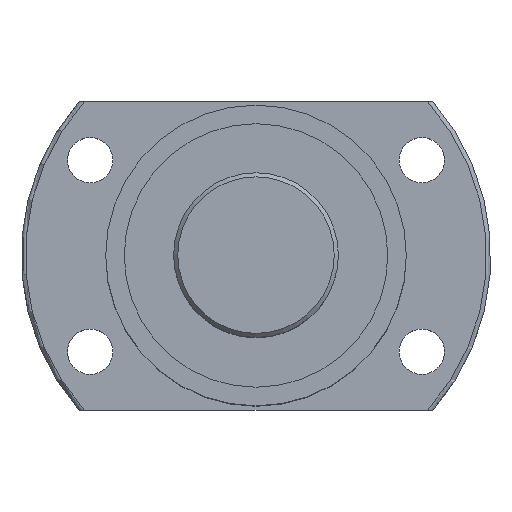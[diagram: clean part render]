
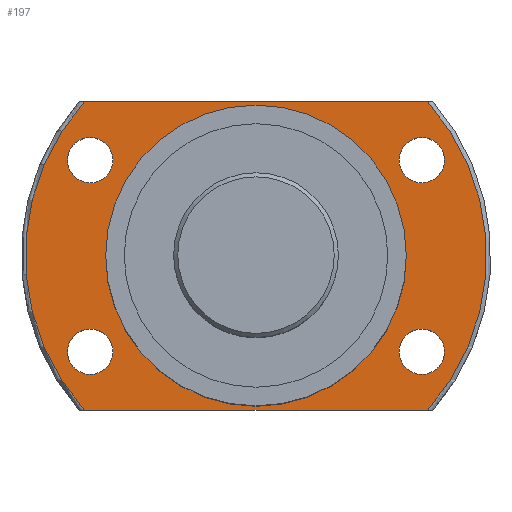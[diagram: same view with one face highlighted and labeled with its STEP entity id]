
A CAD part, top view. The second image highlights one B-rep face of the part: STEP entity #197.
In plain terms, the highlighted planar face has unit normal (0, 0, 1) as drawn and (1, 0, 0) by its records, which use the part's own axes.
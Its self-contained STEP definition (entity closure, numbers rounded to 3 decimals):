
#103=LINE('',#1365,#111);
#104=LINE('',#1366,#112);
#111=VECTOR('',#1027,1.);
#112=VECTOR('',#1028,1.);
#156=PLANE('',#837);
#197=ADVANCED_FACE('',(#297,#298,#299,#300,#301,#302),#156,.F.);
#297=FACE_BOUND('',#395,.T.);
#298=FACE_BOUND('',#396,.T.);
#299=FACE_BOUND('',#397,.T.);
#300=FACE_BOUND('',#398,.T.);
#301=FACE_BOUND('',#399,.T.);
#302=FACE_BOUND('',#400,.T.);
#395=EDGE_LOOP('',(#518));
#396=EDGE_LOOP('',(#519));
#397=EDGE_LOOP('',(#520));
#398=EDGE_LOOP('',(#521));
#399=EDGE_LOOP('',(#522));
#400=EDGE_LOOP('',(#523,#524,#525,#526));
#518=ORIENTED_EDGE('',*,*,#646,.F.);
#519=ORIENTED_EDGE('',*,*,#689,.T.);
#520=ORIENTED_EDGE('',*,*,#690,.T.);
#521=ORIENTED_EDGE('',*,*,#691,.T.);
#522=ORIENTED_EDGE('',*,*,#692,.T.);
#523=ORIENTED_EDGE('',*,*,#671,.T.);
#524=ORIENTED_EDGE('',*,*,#693,.T.);
#525=ORIENTED_EDGE('',*,*,#688,.T.);
#526=ORIENTED_EDGE('',*,*,#694,.F.);
#584=VERTEX_POINT('',#1122);
#607=VERTEX_POINT('',#1236);
#608=VERTEX_POINT('',#1238);
#619=VERTEX_POINT('',#1334);
#620=VERTEX_POINT('',#1354);
#621=VERTEX_POINT('',#1358);
#622=VERTEX_POINT('',#1360);
#623=VERTEX_POINT('',#1362);
#624=VERTEX_POINT('',#1364);
#646=EDGE_CURVE('',#584,#584,#716,.T.);
#671=EDGE_CURVE('',#608,#607,#736,.T.);
#688=EDGE_CURVE('',#619,#620,#744,.T.);
#689=EDGE_CURVE('',#621,#621,#745,.T.);
#690=EDGE_CURVE('',#622,#622,#746,.T.);
#691=EDGE_CURVE('',#623,#623,#747,.T.);
#692=EDGE_CURVE('',#624,#624,#748,.T.);
#693=EDGE_CURVE('',#607,#619,#103,.T.);
#694=EDGE_CURVE('',#608,#620,#104,.T.);
#716=CIRCLE('',#780,36.5);
#736=CIRCLE('',#819,56.);
#744=CIRCLE('',#831,56.);
#745=CIRCLE('',#833,5.5);
#746=CIRCLE('',#834,5.5);
#747=CIRCLE('',#835,5.5);
#748=CIRCLE('',#836,5.5);
#780=AXIS2_PLACEMENT_3D('',#1121,#907,#908);
#819=AXIS2_PLACEMENT_3D('',#1237,#987,#988);
#831=AXIS2_PLACEMENT_3D('',#1355,#1015,#1016);
#833=AXIS2_PLACEMENT_3D('',#1357,#1019,#1020);
#834=AXIS2_PLACEMENT_3D('',#1359,#1021,#1022);
#835=AXIS2_PLACEMENT_3D('',#1361,#1023,#1024);
#836=AXIS2_PLACEMENT_3D('',#1363,#1025,#1026);
#837=AXIS2_PLACEMENT_3D('',#1367,#1029,#1030);
#907=DIRECTION('',(1.,0.,0.));
#908=DIRECTION('',(0.,-1.,0.));
#987=DIRECTION('',(1.,0.,0.));
#988=DIRECTION('',(0.,1.,0.));
#1015=DIRECTION('',(1.,0.,0.));
#1016=DIRECTION('',(0.,1.,0.));
#1019=DIRECTION('',(-1.,0.,0.));
#1020=DIRECTION('',(0.,-1.,0.));
#1021=DIRECTION('',(-1.,0.,0.));
#1022=DIRECTION('',(0.,-1.,0.));
#1023=DIRECTION('',(-1.,0.,0.));
#1024=DIRECTION('',(0.,-1.,0.));
#1025=DIRECTION('',(-1.,0.,0.));
#1026=DIRECTION('',(0.,-1.,0.));
#1027=DIRECTION('',(0.,0.,1.));
#1028=DIRECTION('',(0.,0.,1.));
#1029=DIRECTION('',(-1.,0.,0.));
#1030=DIRECTION('',(0.,-1.,0.));
#1121=CARTESIAN_POINT('',(69.446,51.197,0.));
#1122=CARTESIAN_POINT('',(69.446,14.697,0.));
#1236=CARTESIAN_POINT('',(69.446,88.697,-41.59));
#1237=CARTESIAN_POINT('',(69.446,51.197,0.));
#1238=CARTESIAN_POINT('',(69.446,13.697,-41.59));
#1334=CARTESIAN_POINT('',(69.446,88.697,41.59));
#1354=CARTESIAN_POINT('',(69.446,13.697,41.59));
#1355=CARTESIAN_POINT('',(69.446,51.197,0.));
#1357=CARTESIAN_POINT('',(69.446,74.447,-40.27));
#1358=CARTESIAN_POINT('',(69.446,68.947,-40.27));
#1359=CARTESIAN_POINT('',(69.446,27.947,-40.27));
#1360=CARTESIAN_POINT('',(69.446,22.447,-40.27));
#1361=CARTESIAN_POINT('',(69.446,27.947,40.27));
#1362=CARTESIAN_POINT('',(69.446,22.447,40.27));
#1363=CARTESIAN_POINT('',(69.446,74.447,40.27));
#1364=CARTESIAN_POINT('',(69.446,68.947,40.27));
#1365=CARTESIAN_POINT('',(69.446,88.697,-73.72));
#1366=CARTESIAN_POINT('',(69.446,13.697,-73.72));
#1367=CARTESIAN_POINT('',(69.446,107.197,0.));
